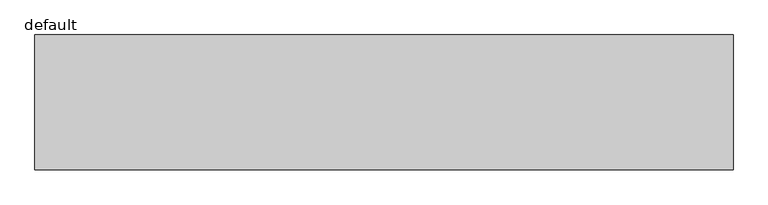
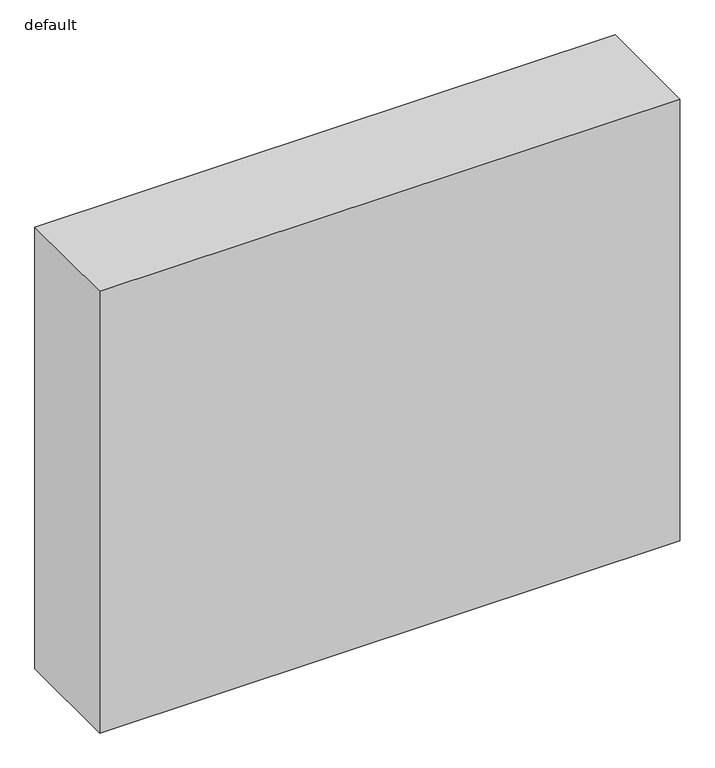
"""IFC4 building model written with IfcOpenShell, lengths in millimetres: furniture geometry, Fu_шкаф встроенный_LEG : default."""

from ifc_helpers import new_model, si_unit, origin, origin_with_axes, place, context, project, spatial, polyline, outline, extrude, source, transform, mapped, element, save


def default_1b38eee4(model_context):
    return source(origin(), model_context, "Body", "SweptSolid", [
        extrude(outline(polyline([(3105.0, 0.0), (0.0, 0.0), (0.0, 600.0), (3105.0, 600.0), (3105.0, 0.0)])), origin_with_axes(), (0.0, 0.0, 1.0), 2500.0),
    ])


if __name__ == "__main__":
    model = new_model("IFC4")
    model_context = context("Model", 3, world=origin())
    ifc_project = project(units=[si_unit("LENGTHUNIT", "METRE", prefix="MILLI")], contexts=[model_context])
    site = spatial("IfcSite", under=ifc_project)
    building = spatial("IfcBuilding", under=site)
    placement = place(None, origin())
    default_shape = default_1b38eee4(model_context)
    element("IfcFurniture", 1, ObjectType="Fu_шкаф встроенный_LEG : default", at=placement, inside=building, context=model_context, shape_type="MappedRepresentation", body=[
        mapped(default_shape, transform((0.0, 0.0, 0.0), x_axis=(1.0, 0.0, 0.0), y_axis=(0.0, 1.0, 0.0), z_axis=(0.0, 0.0, 1.0))),
    ])
    save(model, "model.ifc")
